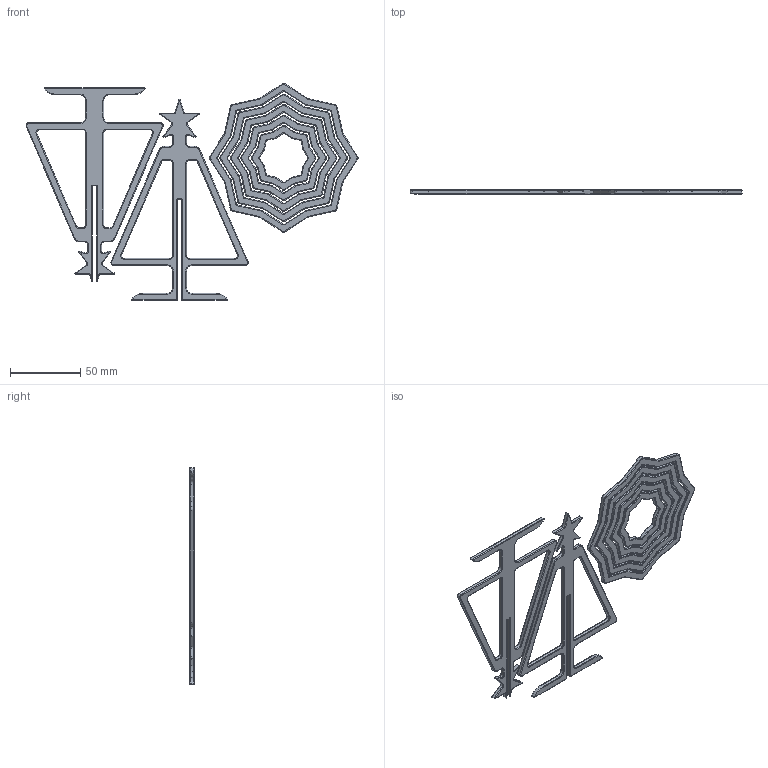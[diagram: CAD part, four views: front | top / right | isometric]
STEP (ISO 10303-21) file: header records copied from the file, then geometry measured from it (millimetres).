
FILE_DESCRIPTION (( 'STEP AP214' ), '1' );
FILE_NAME ('Tannenbaum 3D-Druck.STEP', '2025-12-18T07:33:54', ( '' ), ( '' ), 'SwSTEP 2.0', 'SolidWorks 2022', '' );
FILE_SCHEMA (( 'AUTOMOTIVE_DESIGN' ));
Length unit declared in the file: millimetre
Products named in the file (8): Hälfte_1_Standard; Hälfte_2_Standard; Stern_5_Standard; Stern_3_Standard; Stern_4_Standard; Tannenbaum 3D-Druck; Stern_1_Standard; Stern_2_Standard
Assembly tree (7 placements, depth 2):
  Tannenbaum 3D-Druck
    Hälfte_1_Standard
    Hälfte_2_Standard
    Stern_1_Standard
    Stern_2_Standard
    Stern_3_Standard
    Stern_4_Standard
    Stern_5_Standard
Bounding box: 237.01 x 3 x 154.88 mm (x, y, z)
Volume: 34855.3 mm3; surface area: 34696.5 mm2
Topology: 7 solids, 7 shells, 1445 faces, 3365 edges, 1902 vertices
Faces by surface type: cylinder 708, torus 452, plane 243, sphere 38, bspline 4
Entity records: 41027 total; most frequent: DIRECTION 8109, CARTESIAN_POINT 6926, ORIENTED_EDGE 6618, AXIS2_PLACEMENT_3D 3357, EDGE_CURVE 3309, CIRCLE 1906, VERTEX_POINT 1878, EDGE_LOOP 1463
